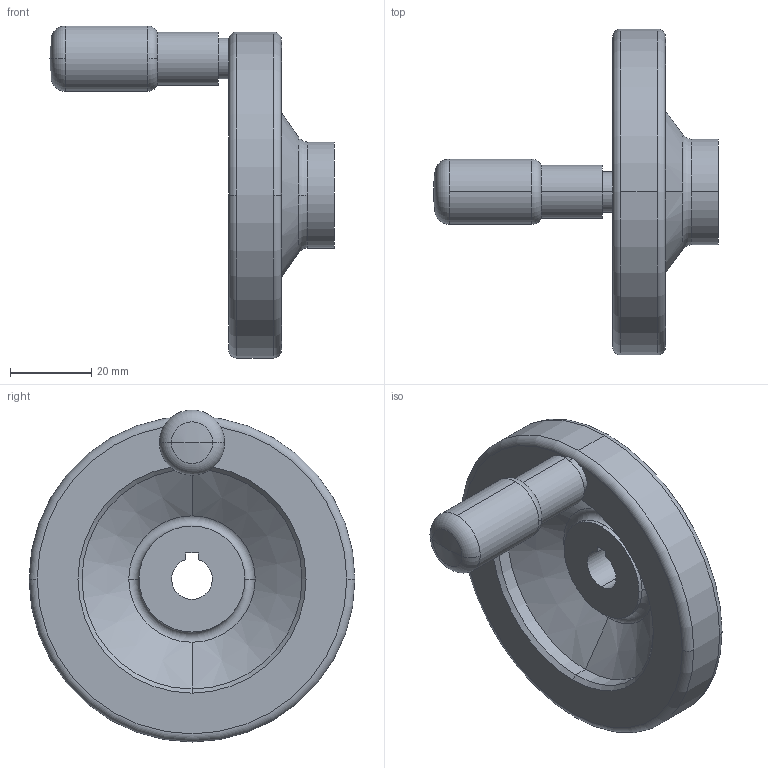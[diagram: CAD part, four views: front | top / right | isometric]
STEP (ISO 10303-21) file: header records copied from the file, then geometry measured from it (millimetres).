
FILE_DESCRIPTION (( 'STEP AP203' ), '1' );
FILE_NAME ('HR08009.STEP', '2024-01-16T10:34:17', ( '' ), ( '' ), 'SwSTEP 2.0', 'SolidWorks 2022', '' );
FILE_SCHEMA (( 'CONFIG_CONTROL_DESIGN' ));
Length unit declared in the file: millimetre
Products named in the file (1): HR08009
Bounding box: 69.95 x 80 x 81.5 mm (x, y, z)
Volume: 54317.4 mm3; surface area: 18979.1 mm2
Topology: 2 solids, 2 shells, 71 faces, 170 edges, 108 vertices
Faces by surface type: cylinder 24, plane 17, cone 14, torus 14, sphere 2
Entity records: 2184 total; most frequent: DIRECTION 419, CARTESIAN_POINT 350, ORIENTED_EDGE 340, AXIS2_PLACEMENT_3D 177, EDGE_CURVE 170, VERTEX_POINT 108, CIRCLE 105, EDGE_LOOP 80
